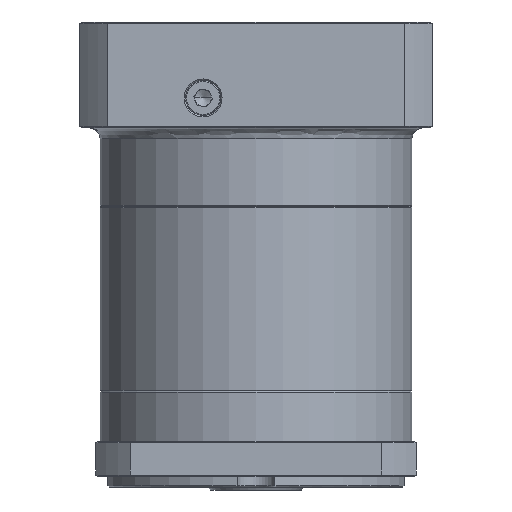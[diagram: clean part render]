
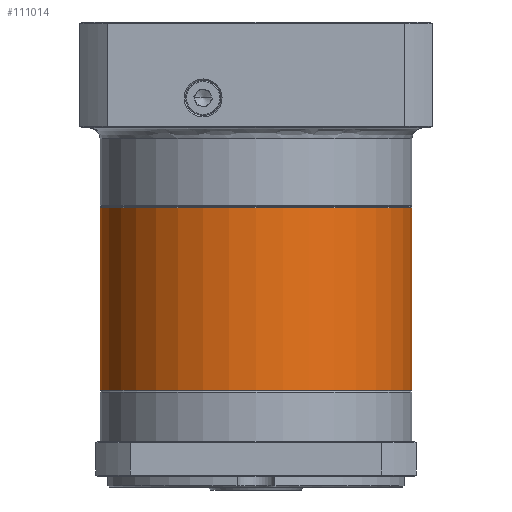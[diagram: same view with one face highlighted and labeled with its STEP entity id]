
A CAD part, front view. The second image highlights one B-rep face of the part: STEP entity #111014.
In plain terms, the highlighted cylindrical face has radius 57.5 mm (diameter 115 mm), a partial arc.
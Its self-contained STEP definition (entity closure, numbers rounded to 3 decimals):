
#3268 = VERTEX_POINT ( 'NONE', #47230 ) ;
#14360 = VERTEX_POINT ( 'NONE', #28147 ) ;
#16171 = DIRECTION ( 'NONE',  ( 0., 0., -1. ) ) ;
#19640 = CARTESIAN_POINT ( 'NONE',  ( 111.408, 53.71, -55.944 ) ) ;
#19966 = ORIENTED_EDGE ( 'NONE', *, *, #53878, .F. ) ;
#24177 = AXIS2_PLACEMENT_3D ( 'NONE', #120061, #90151, #123584 ) ;
#25811 = CIRCLE ( 'NONE', #54331, 57.5 ) ;
#26278 = DIRECTION ( 'NONE',  ( -1., 0., 0. ) ) ;
#27939 = VECTOR ( 'NONE', #64350, 1000. ) ;
#27945 = DIRECTION ( 'NONE',  ( -1., 0., 0. ) ) ;
#28147 = CARTESIAN_POINT ( 'NONE',  ( 111.408, 53.71, -123.155 ) ) ;
#28846 = VERTEX_POINT ( 'NONE', #41014 ) ;
#34813 = VERTEX_POINT ( 'NONE', #43002 ) ;
#35730 = CARTESIAN_POINT ( 'NONE',  ( 111.408, 53.71, -55.444 ) ) ;
#36508 = VERTEX_POINT ( 'NONE', #19640 ) ;
#36549 = VECTOR ( 'NONE', #74848, 1000. ) ;
#41014 = CARTESIAN_POINT ( 'NONE',  ( -3.592, 53.71, -123.155 ) ) ;
#43002 = CARTESIAN_POINT ( 'NONE',  ( -3.592, 53.71, -55.944 ) ) ;
#45092 = EDGE_CURVE ( 'NONE', #28846, #14360, #25811, .T. ) ;
#47230 = CARTESIAN_POINT ( 'NONE',  ( 53.908, -3.79, -55.944 ) ) ;
#53878 = EDGE_CURVE ( 'NONE', #36508, #14360, #73627, .T. ) ;
#54331 = AXIS2_PLACEMENT_3D ( 'NONE', #85278, #65310, #27945 ) ;
#55974 = ORIENTED_EDGE ( 'NONE', *, *, #97630, .T. ) ;
#60140 = EDGE_CURVE ( 'NONE', #3268, #34813, #75404, .T. ) ;
#63560 = AXIS2_PLACEMENT_3D ( 'NONE', #117078, #16171, #26278 ) ;
#64350 = DIRECTION ( 'NONE',  ( 0., 0., -1. ) ) ;
#65310 = DIRECTION ( 'NONE',  ( 0., 0., 1. ) ) ;
#68992 = AXIS2_PLACEMENT_3D ( 'NONE', #77846, #81772, #91528 ) ;
#73627 = LINE ( 'NONE', #35730, #27939 ) ;
#74848 = DIRECTION ( 'NONE',  ( 0., 0., -1. ) ) ;
#75404 = CIRCLE ( 'NONE', #63560, 57.5 ) ;
#77846 = CARTESIAN_POINT ( 'NONE',  ( 53.908, 53.71, -55.444 ) ) ;
#81772 = DIRECTION ( 'NONE',  ( 0., 0., -1. ) ) ;
#84626 = CARTESIAN_POINT ( 'NONE',  ( -3.592, 53.71, -55.444 ) ) ;
#85278 = CARTESIAN_POINT ( 'NONE',  ( 53.908, 53.71, -123.155 ) ) ;
#88672 = CYLINDRICAL_SURFACE ( 'NONE', #68992, 57.5 ) ;
#90125 = EDGE_CURVE ( 'NONE', #34813, #28846, #117042, .T. ) ;
#90151 = DIRECTION ( 'NONE',  ( 0., 0., -1. ) ) ;
#91528 = DIRECTION ( 'NONE',  ( -1., 0., 0. ) ) ;
#93969 = CIRCLE ( 'NONE', #24177, 57.5 ) ;
#97630 = EDGE_CURVE ( 'NONE', #36508, #3268, #93969, .T. ) ;
#98823 = ORIENTED_EDGE ( 'NONE', *, *, #90125, .T. ) ;
#102799 = FACE_OUTER_BOUND ( 'NONE', #112905, .T. ) ;
#110309 = ORIENTED_EDGE ( 'NONE', *, *, #45092, .T. ) ;
#111014 = ADVANCED_FACE ( 'NONE', ( #102799 ), #88672, .T. ) ;
#112905 = EDGE_LOOP ( 'NONE', ( #19966, #55974, #118384, #98823, #110309 ) ) ;
#117042 = LINE ( 'NONE', #84626, #36549 ) ;
#117078 = CARTESIAN_POINT ( 'NONE',  ( 53.908, 53.71, -55.944 ) ) ;
#118384 = ORIENTED_EDGE ( 'NONE', *, *, #60140, .T. ) ;
#120061 = CARTESIAN_POINT ( 'NONE',  ( 53.908, 53.71, -55.944 ) ) ;
#123584 = DIRECTION ( 'NONE',  ( -1., 0., 0. ) ) ;
